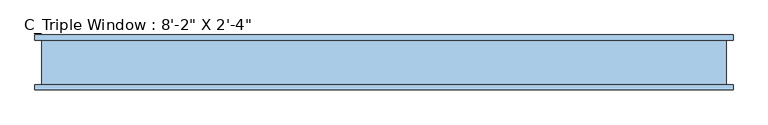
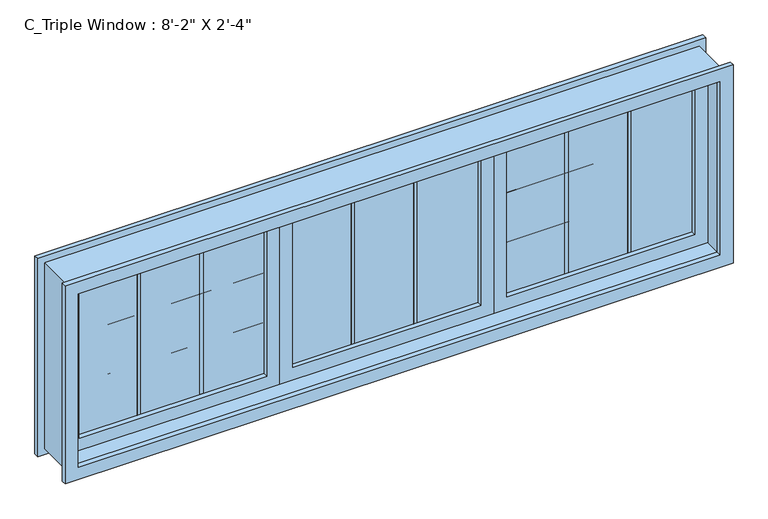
"""IFC4 building model written with IfcOpenShell, lengths in millimetres: window geometry."""

from ifc_helpers import new_model, si_unit, frame, origin, place, context, project, spatial, polyline, outline, extrude, source, transform, mapped, element, save


def window_cca6b115(model_context):
    return source(origin(), model_context, "Body", "SweptSolid", [
        extrude(outline(polyline([(-115.0055556, 12.7), (-115.0055556, 0.0), (-127.7055556, 0.0), (-127.7055556, 12.7), (-115.0055556, 12.7)])), frame((0.0, 0.0, 1270.0), z_axis=(0.0, 0.0, 1.0), x_axis=(1.0, 0.0, 0.0)), (0.0, 0.0, 1.0), 609.6),
        extrude(outline(polyline([(127.7055556, 12.7), (127.7055556, 0.0), (115.0055556, 0.0), (115.0055556, 12.7), (127.7055556, 12.7)])), frame((0.0, 0.0, 1270.0), z_axis=(0.0, 0.0, 1.0), x_axis=(1.0, 0.0, 0.0)), (0.0, 0.0, 1.0), 609.6),
        extrude(outline(polyline([(-364.0666667, 0.0), (-364.0666667, 12.7), (364.0666667, 12.7), (364.0666667, 0.0), (-364.0666667, 0.0)])), frame((0.0, 0.0, 1270.0), z_axis=(0.0, 0.0, 1.0), x_axis=(1.0, 0.0, 0.0)), (0.0, 0.0, 1.0), 609.6),
        extrude(outline(polyline([(1930.4, -414.8666667), (1219.2, -414.8666667), (1219.2, 414.8666667), (1930.4, 414.8666667), (1930.4, -414.8666667)]), holes=[polyline([(1879.6, 364.0666667), (1270.0, 364.0666667), (1270.0, -364.0666667), (1879.6, -364.0666667), (1879.6, 364.0666667)])]), frame((0.0, -19.05, 0.0), z_axis=(0.0, 1.0, 0.0), x_axis=(0.0, 0.0, 1.0)), (0.0, 0.0, 1.0), 50.8),
        extrude(outline(polyline([(-364.0666667, 0.0), (-364.0666667, 12.7), (364.0666667, 12.7), (364.0666667, 0.0), (-364.0666667, 0.0)])), frame((0.0, 0.0, 1670.05), z_axis=(0.0, 0.0, 1.0), x_axis=(1.0, 0.0, 0.0)), (0.0, 0.0, 1.0), 12.7),
        extrude(outline(polyline([(-364.0666667, 0.0), (-364.0666667, 12.7), (364.0666667, 12.7), (364.0666667, 0.0), (-364.0666667, 0.0)])), frame((0.0, 0.0, 1466.85), z_axis=(0.0, 0.0, 1.0), x_axis=(1.0, 0.0, 0.0)), (0.0, 0.0, 1.0), 12.7),
        extrude(outline(polyline([(-944.7388889, 12.7), (-944.7388889, 0.0), (-957.4388889, 0.0), (-957.4388889, 12.7), (-944.7388889, 12.7)])), frame((0.0, 0.0, 1270.0), z_axis=(0.0, 0.0, 1.0), x_axis=(1.0, 0.0, 0.0)), (0.0, 0.0, 1.0), 609.6),
        extrude(outline(polyline([(-702.0277778, 12.7), (-702.0277778, 0.0), (-714.7277778, 0.0), (-714.7277778, 12.7), (-702.0277778, 12.7)])), frame((0.0, 0.0, 1270.0), z_axis=(0.0, 0.0, 1.0), x_axis=(1.0, 0.0, 0.0)), (0.0, 0.0, 1.0), 609.6),
        extrude(outline(polyline([(-1193.8, 0.0), (-1193.8, 12.7), (-465.6666667, 12.7), (-465.6666667, 0.0), (-1193.8, 0.0)])), frame((0.0, 0.0, 1270.0), z_axis=(0.0, 0.0, 1.0), x_axis=(1.0, 0.0, 0.0)), (0.0, 0.0, 1.0), 609.6),
        extrude(outline(polyline([(1930.4, -1244.6), (1219.2, -1244.6), (1219.2, -414.8666667), (1930.4, -414.8666667), (1930.4, -1244.6)]), holes=[polyline([(1879.6, -465.6666667), (1270.0, -465.6666667), (1270.0, -1193.8), (1879.6, -1193.8), (1879.6, -465.6666667)])]), frame((0.0, -19.05, 0.0), z_axis=(0.0, 1.0, 0.0), x_axis=(0.0, 0.0, 1.0)), (0.0, 0.0, 1.0), 50.8),
        extrude(outline(polyline([(-1193.8, 0.0), (-1193.8, 12.7), (-465.6666667, 12.7), (-465.6666667, 0.0), (-1193.8, 0.0)])), frame((0.0, 0.0, 1670.05), z_axis=(0.0, 0.0, 1.0), x_axis=(1.0, 0.0, 0.0)), (0.0, 0.0, 1.0), 12.7),
        extrude(outline(polyline([(-1193.8, 0.0), (-1193.8, 12.7), (-465.6666667, 12.7), (-465.6666667, 0.0), (-1193.8, 0.0)])), frame((0.0, 0.0, 1466.85), z_axis=(0.0, 0.0, 1.0), x_axis=(1.0, 0.0, 0.0)), (0.0, 0.0, 1.0), 12.7),
        extrude(outline(polyline([(714.7277778, 12.7), (714.7277778, 0.0), (702.0277778, 0.0), (702.0277778, 12.7), (714.7277778, 12.7)])), frame((0.0, 0.0, 1270.0), z_axis=(0.0, 0.0, 1.0), x_axis=(1.0, 0.0, 0.0)), (0.0, 0.0, 1.0), 609.6),
        extrude(outline(polyline([(957.4388889, 12.7), (957.4388889, 0.0), (944.7388889, 0.0), (944.7388889, 12.7), (957.4388889, 12.7)])), frame((0.0, 0.0, 1270.0), z_axis=(0.0, 0.0, 1.0), x_axis=(1.0, 0.0, 0.0)), (0.0, 0.0, 1.0), 609.6),
        extrude(outline(polyline([(465.6666667, 0.0), (465.6666667, 12.7), (1193.8, 12.7), (1193.8, 0.0), (465.6666667, 0.0)])), frame((0.0, 0.0, 1270.0), z_axis=(0.0, 0.0, 1.0), x_axis=(1.0, 0.0, 0.0)), (0.0, 0.0, 1.0), 609.6),
        extrude(outline(polyline([(1930.4, 414.8666667), (1219.2, 414.8666667), (1219.2, 1244.6), (1930.4, 1244.6), (1930.4, 414.8666667)]), holes=[polyline([(1879.6, 1193.8), (1270.0, 1193.8), (1270.0, 465.6666667), (1879.6, 465.6666667), (1879.6, 1193.8)])]), frame((0.0, -19.05, 0.0), z_axis=(0.0, 1.0, 0.0), x_axis=(0.0, 0.0, 1.0)), (0.0, 0.0, 1.0), 50.8),
        extrude(outline(polyline([(465.6666667, 0.0), (465.6666667, 12.7), (1193.8, 12.7), (1193.8, 0.0), (465.6666667, 0.0)])), frame((0.0, 0.0, 1670.05), z_axis=(0.0, 0.0, 1.0), x_axis=(1.0, 0.0, 0.0)), (0.0, 0.0, 1.0), 12.7),
        extrude(outline(polyline([(465.6666667, 0.0), (465.6666667, 12.7), (1193.8, 12.7), (1193.8, 0.0), (465.6666667, 0.0)])), frame((0.0, 0.0, 1466.85), z_axis=(0.0, 0.0, 1.0), x_axis=(1.0, 0.0, 0.0)), (0.0, 0.0, 1.0), 12.7),
        extrude(outline(polyline([(1981.2, -1295.4), (1168.4, -1295.4), (1168.4, 1295.4), (1981.2, 1295.4), (1981.2, -1295.4)]), holes=[polyline([(1930.4, -1244.6), (1930.4, 1244.6), (1219.2, 1244.6), (1219.2, -1244.6), (1930.4, -1244.6)])]), frame((0.0, -101.6, 0.0), z_axis=(0.0, 1.0, 0.0), x_axis=(0.0, 0.0, 1.0)), (0.0, 0.0, 1.0), 19.05),
        extrude(outline(polyline([(1981.2, -1295.4), (1168.4, -1295.4), (1168.4, 1295.4), (1981.2, 1295.4), (1981.2, -1295.4)]), holes=[polyline([(1930.4, -1244.6), (1930.4, 1244.6), (1219.2, 1244.6), (1219.2, -1244.6), (1930.4, -1244.6)])]), frame((0.0, 82.55, 0.0), z_axis=(0.0, 1.0, 0.0), x_axis=(0.0, 0.0, 1.0)), (0.0, 0.0, 1.0), 19.05),
        extrude(outline(polyline([(1955.8, -1270.0), (1193.8, -1270.0), (1193.8, 1270.0), (1955.8, 1270.0), (1955.8, -1270.0)]), holes=[polyline([(1930.4, 1244.6), (1219.2, 1244.6), (1219.2, -1244.6), (1930.4, -1244.6), (1930.4, 1244.6)])]), frame((0.0, -82.55, 0.0), z_axis=(0.0, 1.0, 0.0), x_axis=(0.0, 0.0, 1.0)), (0.0, 0.0, 1.0), 165.1),
    ])


if __name__ == "__main__":
    model = new_model("IFC4")
    model_context = context("Model", 3, world=origin())
    ifc_project = project(units=[si_unit("LENGTHUNIT", "METRE", prefix="MILLI")], contexts=[model_context])
    site = spatial("IfcSite", under=ifc_project)
    building = spatial("IfcBuilding", under=site)
    placement = place(None, origin())
    window_shape = window_cca6b115(model_context)
    element("IfcWindow", 1, ObjectType="C_Triple Window : 8'-2\" X 2'-4\"", at=placement, inside=building, context=model_context, shape_type="MappedRepresentation", body=[
        mapped(window_shape, transform((0.0, 0.0, 0.0), x_axis=(1.0, 0.0, 0.0), y_axis=(0.0, 1.0, 0.0), z_axis=(0.0, 0.0, 1.0))),
    ])
    save(model, "model.ifc")
